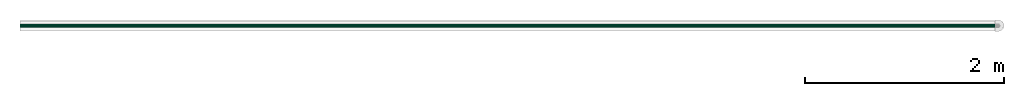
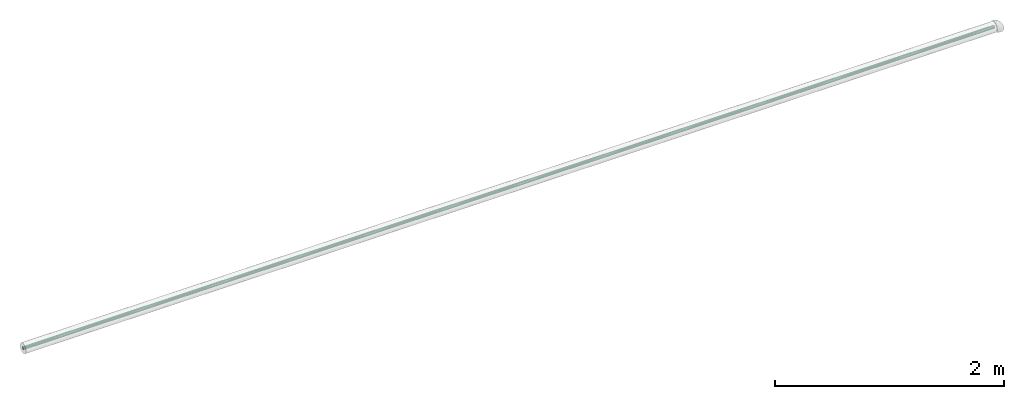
# One storey, part 4 of 4: 1 flow segment.
"""IFC2X3 building model written with IfcOpenShell, lengths in millimetres."""

import ifcopenshell
import ifcopenshell.guid

model = None  # the IFC model being written
_history = None  # IfcOwnerHistory: only IFC2X3 demands one
_inside = {}  # id of a spatial element -> (the spatial element, [elements in it])
_under = {}  # id of a project, library or spatial element -> (it, [spatial elements below it])
_declared = {}  # id of a project -> (the project, [libraries it declares])
_typed = {}  # id of a type object -> (the type object, [elements of that type])
_made_of = {}  # id of a material, layer set ... -> (it, [elements and type objects made of it])


def new_model(schema):
    """Start an empty IFC model of exactly this schema.

    Asked for "IFC4X3", IfcOpenShell would pick the latest addendum, in which some entities
    have other attributes; the version numbers below select the first issue.
    IFC2X3 requires an IfcOwnerHistory on every rooted entity: one is made here for all.
    """
    global model, _history
    if schema == "IFC4X3":
        model = ifcopenshell.file(schema_version=(4, 3, 0, 0))
    else:
        model = ifcopenshell.file(schema=schema)
    _inside.clear()
    _under.clear()
    _declared.clear()
    _typed.clear()
    _made_of.clear()
    _history = None
    if model.schema == "IFC2X3":
        org = make("IfcOrganization", Name="unknown")
        user = make(
            "IfcPersonAndOrganization",
            ThePerson=make("IfcPerson", FamilyName="unknown"),
            TheOrganization=org,
        )
        app = make(
            "IfcApplication",
            ApplicationDeveloper=org,
            Version="unknown",
            ApplicationFullName="unknown",
            ApplicationIdentifier="unknown",
        )
        _history = make(
            "IfcOwnerHistory",
            OwningUser=user,
            OwningApplication=app,
            ChangeAction="ADDED",
            CreationDate=0,
        )
    return model


def make(cls, **values):
    """One entity of the class cls with the attributes given. An attribute that is None is left unset."""
    return model.create_entity(
        cls, **{name: value for name, value in values.items() if value is not None}
    )


def entity(cls, *values):
    """Any entity or typed value of the class cls, its attributes in the order of the schema. None: left unset."""
    e = model.create_entity(cls)
    for i, value in enumerate(values):
        if value is not None:
            e[i] = value
    return e


def rooted(cls, **values):
    """An entity with a GlobalId (a new one), such as an element, a storey or a relation."""
    return make(cls, GlobalId=ifcopenshell.guid.new(), OwnerHistory=_history, **values)


def si_unit(unit_type, name, prefix=None):
    """IfcSIUnit, for example si_unit("LENGTHUNIT", "METRE", prefix="MILLI")."""
    return make("IfcSIUnit", UnitType=unit_type, Prefix=prefix, Name=name)


def converted_unit(unit_type, name, factor, base, dimensions=None, offset=None):
    """IfcConversionBasedUnit, such as the inch: factor (a typed value) times the base unit."""
    return make(
        "IfcConversionBasedUnit"
        if offset is None
        else "IfcConversionBasedUnitWithOffset",
        ConversionOffset=offset,
        Dimensions=None
        if dimensions is None
        else entity("IfcDimensionalExponents", *dimensions),
        UnitType=unit_type,
        Name=name,
        ConversionFactor=make(
            "IfcMeasureWithUnit", ValueComponent=factor, UnitComponent=base
        ),
    )


def derived_unit(unit_type, elements):
    """IfcDerivedUnit: a product of units, each with its exponent."""
    return make(
        "IfcDerivedUnit",
        Elements=[
            make("IfcDerivedUnitElement", Unit=unit, Exponent=power)
            for unit, power in elements
        ],
        UnitType=unit_type,
    )


def assignment(units):
    """IfcUnitAssignment: the units of a project."""
    return None if units is None else make("IfcUnitAssignment", Units=units)


def point(xyz):
    """IfcCartesianPoint."""
    return None if xyz is None else make("IfcCartesianPoint", Coordinates=xyz)


def direction(xyz):
    """IfcDirection."""
    return None if xyz is None else make("IfcDirection", DirectionRatios=xyz)


def frame(location, z_axis=None, x_axis=None):
    """IfcAxis2Placement3D, a coordinate frame: its origin and axes. An axis left out is left unset."""
    return make(
        "IfcAxis2Placement3D",
        Location=point(location),
        Axis=direction(z_axis),
        RefDirection=direction(x_axis),
    )


def place(relative_to, where):
    """IfcLocalPlacement: puts the frame where relative to a parent placement (None: the world)."""
    return make(
        "IfcLocalPlacement", PlacementRelTo=relative_to, RelativePlacement=where
    )


def context(
    kind, dimensions, precision=None, world=None, true_north=None, identifier=None
):
    """IfcGeometricRepresentationContext, for example the 3D "Model" context."""
    return make(
        "IfcGeometricRepresentationContext",
        ContextIdentifier=identifier,
        ContextType=kind,
        CoordinateSpaceDimension=dimensions,
        Precision=precision,
        WorldCoordinateSystem=world,
        TrueNorth=true_north,
    )


def subcontext(parent, identifier, kind, view, scale=None):
    """IfcGeometricRepresentationSubContext, for example "Body" below "Model"."""
    return make(
        "IfcGeometricRepresentationSubContext",
        ContextIdentifier=identifier,
        ContextType=kind,
        ParentContext=parent,
        TargetScale=scale,
        TargetView=view,
    )


def project(units=None, contexts=None):
    """IfcProject with its units and contexts."""
    return rooted(
        "IfcProject",
        Name="project",
        RepresentationContexts=contexts,
        UnitsInContext=assignment(units),
    )


def spatial(cls, under=None, at=None, **own):
    """A site, building, storey or space (cls), placed at a placement, below another one or the project."""
    s = rooted(cls, ObjectPlacement=at, **own)
    if under is not None:
        _under.setdefault(under.id(), (under, []))[1].append(s)
    return s


def faces_of(points, faces, orient=None, outer=None):
    """IfcFace entities. A face is a list of loops; a loop is a list of indices into points, from 0.

    orient and outer hold one flag for each loop. By default every Orientation is true, the
    first loop of a face is its IfcFaceOuterBound and the others are IfcFaceBound.
    """
    made = []
    for i, loops in enumerate(faces):
        bounds = []
        for j, loop in enumerate(loops):
            is_outer = j == 0 if outer is None else outer[i][j]
            bounds.append(
                make(
                    "IfcFaceOuterBound" if is_outer else "IfcFaceBound",
                    Bound=make("IfcPolyLoop", Polygon=[points[k] for k in loop]),
                    Orientation=True if orient is None else orient[i][j],
                )
            )
        made.append(make("IfcFace", Bounds=bounds))
    return made


def faceted_brep(points, faces, orient=None, outer=None, voids=None):
    """IfcFacetedBrep: a solid bounded by flat faces; with voids (closed shells), ...WithVoids."""
    shared = [point(p) for p in points]
    hull = make("IfcClosedShell", CfsFaces=faces_of(shared, faces, orient, outer))
    if voids is None:
        return make("IfcFacetedBrep", Outer=hull)
    return make(
        "IfcFacetedBrepWithVoids",
        Outer=hull,
        Voids=[
            make(cls, CfsFaces=faces_of(shared, fs, o, b)) for cls, fs, o, b in voids
        ],
    )


def shape(context_of_items, identifier, shape_type, items):
    """IfcShapeRepresentation: the items that make up one representation, for example the "Body"."""
    return make(
        "IfcShapeRepresentation",
        ContextOfItems=context_of_items,
        RepresentationIdentifier=identifier,
        RepresentationType=shape_type,
        Items=items,
    )


def made_of(thing, what):
    """Note that an element or type object is made of a material, layer set ...; save() writes the relation."""
    if what is not None:
        _made_of.setdefault(what.id(), (what, []))[1].append(thing)
    return thing


def type_object(cls, material=None, **own):
    """A type object (cls), such as IfcWallType, which elements share."""
    return made_of(rooted(cls, **own), material)


def element(
    cls,
    number,
    at=None,
    inside=None,
    cuts=None,
    type_object=None,
    material=None,
    context=None,
    identifier="Body",
    shape_type=None,
    held_by="IfcProductDefinitionShape",
    body=None,
    shapes=None,
    **own,
):
    """One element of the class cls, such as IfcWall. Its Tag is "e" and its number.

    at: its placement. inside: the storey or other place that contains it. cuts: it is an
    opening in that element (IfcRelVoidsElement). A single representation is given by context,
    identifier, shape_type and body (its items); several are given by shapes. held_by: the class
    of the entity that holds the representations. save() writes the other relations.
    """
    e = rooted(cls, Tag="e%d" % number, ObjectPlacement=at, **own)
    if body is not None:
        shapes = [shape(context, identifier, shape_type, body)]
    if shapes is not None:
        e.Representation = make(held_by, Representations=shapes)
    if inside is not None:
        _inside.setdefault(inside.id(), (inside, []))[1].append(e)
    if cuts is not None:
        rooted(
            "IfcRelVoidsElement", RelatingBuildingElement=cuts, RelatedOpeningElement=e
        )
    if type_object is not None:
        _typed.setdefault(type_object.id(), (type_object, []))[1].append(e)
    return made_of(e, material)


def aggregate(whole, parts):
    """IfcRelAggregates: a whole, such as a stair, and the parts it consists of."""
    return rooted("IfcRelAggregates", RelatingObject=whole, RelatedObjects=parts)


def save(model, path):
    """Write the relations noted so far, then the file.

    IfcRelAggregates (storeys below a building ...), IfcRelContainedInSpatialStructure (elements
    in a storey), IfcRelDefinesByType, IfcRelAssociatesMaterial and IfcRelDeclares: one each for
    every whole, place, type object, material and project.
    """
    for whole, parts in _under.values():
        aggregate(whole, parts)
    for where, things in _inside.values():
        rooted(
            "IfcRelContainedInSpatialStructure",
            RelatedElements=things,
            RelatingStructure=where,
        )
    for kind, things in _typed.values():
        rooted("IfcRelDefinesByType", RelatedObjects=things, RelatingType=kind)
    for what, things in _made_of.values():
        rooted("IfcRelAssociatesMaterial", RelatedObjects=things, RelatingMaterial=what)
    for by, libraries in _declared.values():
        rooted("IfcRelDeclares", RelatingContext=by, RelatedDefinitions=libraries)
    model.write(path)


model = new_model("IFC2X3")

# Units and contexts
model_context = context("Model", 3, precision=0.01, world=frame((0.0, 4.29681676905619e-09, 0.0)), true_north=direction((4.01073788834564e-13, 1.0)))
plan_context = context("Plan", 3, precision=0.01, world=frame((0.0, 4.29681676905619e-09, 0.0)), true_north=direction((4.01073788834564e-13, 1.0)))
body_context = subcontext(model_context, "Body", "Model", "MODEL_VIEW")
ifc_project = project(units=[converted_unit("PLANEANGLEUNIT", "DEGREE", entity("IfcPositiveLengthMeasure", 0.0174532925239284), si_unit("PLANEANGLEUNIT", "RADIAN"), dimensions=[0, 0, 0, 0, 0, 0, 0]), si_unit("AREAUNIT", "SQUARE_METRE"), si_unit("LENGTHUNIT", "METRE", prefix="MILLI"), si_unit("MASSUNIT", "GRAM", prefix="KILO"), si_unit("POWERUNIT", "WATT"), si_unit("PRESSUREUNIT", "PASCAL"), si_unit("FORCEUNIT", "NEWTON", prefix="KILO"), si_unit("ELECTRICVOLTAGEUNIT", "VOLT"), si_unit("ELECTRICCURRENTUNIT", "AMPERE"), si_unit("THERMODYNAMICTEMPERATUREUNIT", "DEGREE_CELSIUS"), si_unit("TIMEUNIT", "SECOND"), si_unit("VOLUMEUNIT", "CUBIC_METRE"), derived_unit("LINEARVELOCITYUNIT", [(si_unit("LENGTHUNIT", "METRE"), 1), (si_unit("TIMEUNIT", "SECOND"), -1)]), derived_unit("VOLUMETRICFLOWRATEUNIT", [(si_unit("VOLUMEUNIT", "CUBIC_METRE"), 1), (si_unit("TIMEUNIT", "SECOND"), -1)]), derived_unit("THERMALTRANSMITTANCEUNIT", [(si_unit("POWERUNIT", "WATT"), 1), (si_unit("THERMODYNAMICTEMPERATUREUNIT", "KELVIN"), -1), (si_unit("AREAUNIT", "SQUARE_METRE"), -1)]), derived_unit("SOUNDPRESSUREUNIT", [(si_unit("PRESSUREUNIT", "PASCAL"), 1)])], contexts=[model_context, plan_context])

# Site, building, storey
site_placement = place(None, frame((0.0, -4.29681676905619e-09, 0.0), z_axis=(0.0, 0.0, 1.0), x_axis=(1.0, 0.0, 0.0)))
site = spatial("IfcSite", under=ifc_project, at=site_placement, Name="ENGM", CompositionType="ELEMENT")
building_placement = place(site_placement, frame((0.0, 4.29681676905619e-09, 0.0), z_axis=(0.0, 0.0, 1.0), x_axis=(1.0, 0.0, 0.0)))
building = spatial("IfcBuilding", under=site, at=building_placement, Name="TI", CompositionType="ELEMENT")
storey_placement = place(building_placement, frame((0.0, 0.0, 205200.0), z_axis=(0.0, 0.0, 1.0), x_axis=(1.0, 0.0, 0.0)))
storey = spatial("IfcBuildingStorey", under=building, at=storey_placement, Name="Nivå D + 1,2 m", CompositionType="ELEMENT", Elevation=205200.0)

# Flow segment
pipe_segment_type = type_object("IfcPipeSegmentType", Name="Stålrør normaltykke", PredefinedType="RIGIDSEGMENT")
flow_segment_placement = place(storey_placement, frame((607790.23193, 699355.84973, 4953.16299000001), z_axis=(0.0, 0.0, 1.0), x_axis=(-1.0, 0.0, 0.0)))
element("IfcFlowSegment", 1, at=flow_segment_placement, inside=storey, type_object=pipe_segment_type, Name="Stålrør normaltykke", context=body_context, shape_type="Brep", body=[
    faceted_brep([(9790.23193005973, 14.9, 0.0), (9790.23193005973, 14.6736355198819, -2.58735784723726), (0.0, 14.6736355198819, -2.58735784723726), (0.0, 14.9, 0.0), (9790.23193005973, 14.00142004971, -5.09610013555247), (0.0, 14.00142004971, -5.09610013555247), (9790.23193005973, 12.9037785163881, -7.45), (0.0, 12.9037785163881, -7.45000000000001), (9790.23193005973, 11.4140622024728, -9.57753538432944), (0.0, 11.4140622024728, -9.57753538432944), (9790.23193005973, 9.57753538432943, -11.4140622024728), (0.0, 9.57753538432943, -11.4140622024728), (9790.23193005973, 7.45, -12.9037785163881), (0.0, 7.45, -12.9037785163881), (9790.23193005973, 5.09610013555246, -14.00142004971), (0.0, 5.09610013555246, -14.00142004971), (9790.23193005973, 2.58735784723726, -14.6736355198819), (0.0, 2.58735784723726, -14.6736355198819), (9790.23193005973, -2.73708559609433e-15, -14.9), (0.0, -2.73708559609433e-15, -14.9), (9790.23193005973, -2.58735784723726, -14.6736355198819), (0.0, -2.58735784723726, -14.6736355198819), (9790.23193005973, -5.09610013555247, -14.00142004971), (0.0, -5.09610013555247, -14.00142004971), (9790.23193005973, -7.45, -12.9037785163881), (0.0, -7.45000000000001, -12.9037785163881), (9790.23193005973, -9.57753538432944, -11.4140622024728), (0.0, -9.57753538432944, -11.4140622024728), (9790.23193005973, -11.4140622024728, -9.57753538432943), (0.0, -11.4140622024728, -9.57753538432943), (9790.23193005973, -12.9037785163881, -7.44999999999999), (0.0, -12.9037785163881, -7.44999999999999), (9790.23193005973, -14.00142004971, -5.09610013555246), (0.0, -14.00142004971, -5.09610013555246), (9790.23193005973, -14.6736355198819, -2.58735784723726), (0.0, -14.6736355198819, -2.58735784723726), (9790.23193005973, -14.9, 1.82472373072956e-15), (0.0, -14.9, 1.82472373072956e-15), (9790.23193005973, -14.6736355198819, 2.58735784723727), (0.0, -14.6736355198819, 2.58735784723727), (9790.23193005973, -14.00142004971, 5.09610013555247), (0.0, -14.00142004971, 5.09610013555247), (9790.23193005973, -12.9037785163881, 7.45), (0.0, -12.9037785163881, 7.45), (9790.23193005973, -11.4140622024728, 9.57753538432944), (0.0, -11.4140622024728, 9.57753538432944), (9790.23193005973, -9.57753538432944, 11.4140622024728), (0.0, -9.57753538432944, 11.4140622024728), (9790.23193005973, -7.45, 12.9037785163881), (0.0, -7.45, 12.9037785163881), (9790.23193005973, -5.09610013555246, 14.00142004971), (0.0, -5.09610013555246, 14.00142004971), (9790.23193005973, -2.58735784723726, 14.6736355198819), (0.0, -2.58735784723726, 14.6736355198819), (9790.23193005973, 9.12361865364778e-16, 14.9), (0.0, 9.12361865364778e-16, 14.9), (9790.23193005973, 2.58735784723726, 14.6736355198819), (0.0, 2.58735784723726, 14.6736355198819), (9790.23193005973, 5.09610013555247, 14.00142004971), (0.0, 5.09610013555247, 14.00142004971), (9790.23193005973, 7.45, 12.9037785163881), (0.0, 7.45, 12.9037785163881), (9790.23193005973, 9.57753538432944, 11.4140622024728), (0.0, 9.57753538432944, 11.4140622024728), (9790.23193005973, 11.4140622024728, 9.57753538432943), (0.0, 11.4140622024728, 9.57753538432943), (9790.23193005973, 12.9037785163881, 7.45), (0.0, 12.9037785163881, 7.45), (9790.23193005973, 14.00142004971, 5.09610013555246), (0.0, 14.00142004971, 5.09610013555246), (9790.23193005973, 14.6736355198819, 2.58735784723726), (0.0, 14.6736355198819, 2.58735784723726), (9790.23193005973, 16.6432510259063, -2.93465420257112), (9790.23193005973, 16.9, 0.0), (0.0, 16.9, 0.0), (0.0, 16.6432510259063, -2.93465420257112), (9790.23193005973, 16.6432510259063, 2.93465420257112), (0.0, 16.6432510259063, 2.93465420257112), (9790.23193005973, 15.8808052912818, 5.7801404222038), (0.0, 15.8808052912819, 5.7801404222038), (9790.23193005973, 14.635829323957, 8.45), (0.0, 14.635829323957, 8.45), (9790.23193005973, 12.9461510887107, 10.8631106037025), (0.0, 12.9461510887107, 10.8631106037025), (9790.23193005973, 10.8631106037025, 12.9461510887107), (0.0, 10.8631106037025, 12.9461510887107), (9790.23193005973, 8.45, 14.635829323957), (0.0, 8.45, 14.635829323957), (9790.23193005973, 5.7801404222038, 15.8808052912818), (0.0, 5.7801404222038, 15.8808052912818), (9790.23193005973, 2.93465420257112, 16.6432510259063), (0.0, 2.93465420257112, 16.6432510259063), (9790.23193005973, 1.03482654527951e-15, 16.9), (0.0, 1.03482654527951e-15, 16.9), (9790.23193005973, -2.93465420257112, 16.6432510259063), (0.0, -2.93465420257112, 16.6432510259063), (9790.23193005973, -5.7801404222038, 15.8808052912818), (0.0, -5.7801404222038, 15.8808052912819), (9790.23193005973, -8.45, 14.635829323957), (0.0, -8.45, 14.635829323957), (9790.23193005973, -10.8631106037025, 12.9461510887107), (0.0, -10.8631106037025, 12.9461510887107), (9790.23193005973, -12.9461510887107, 10.8631106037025), (0.0, -12.9461510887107, 10.8631106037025), (9790.23193005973, -14.635829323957, 8.45), (0.0, -14.635829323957, 8.45), (9790.23193005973, -15.8808052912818, 5.7801404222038), (0.0, -15.8808052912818, 5.7801404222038), (9790.23193005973, -16.6432510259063, 2.93465420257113), (0.0, -16.6432510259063, 2.93465420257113), (9790.23193005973, -16.9, 2.06965309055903e-15), (0.0, -16.9, 2.06965309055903e-15), (9790.23193005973, -16.6432510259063, -2.93465420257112), (0.0, -16.6432510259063, -2.93465420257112), (9790.23193005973, -15.8808052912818, -5.7801404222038), (0.0, -15.8808052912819, -5.7801404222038), (9790.23193005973, -14.635829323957, -8.44999999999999), (0.0, -14.635829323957, -8.44999999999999), (9790.23193005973, -12.9461510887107, -10.8631106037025), (0.0, -12.9461510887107, -10.8631106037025), (9790.23193005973, -10.8631106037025, -12.9461510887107), (0.0, -10.8631106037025, -12.9461510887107), (9790.23193005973, -8.45000000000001, -14.635829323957), (0.0, -8.45000000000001, -14.635829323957), (9790.23193005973, -5.78014042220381, -15.8808052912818), (0.0, -5.78014042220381, -15.8808052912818), (9790.23193005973, -2.93465420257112, -16.6432510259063), (0.0, -2.93465420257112, -16.6432510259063), (9790.23193005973, -3.10447963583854e-15, -16.9), (0.0, -3.10447963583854e-15, -16.9), (9790.23193005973, 2.93465420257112, -16.6432510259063), (0.0, 2.93465420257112, -16.6432510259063), (9790.23193005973, 5.78014042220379, -15.8808052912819), (0.0, 5.78014042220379, -15.8808052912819), (9790.23193005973, 8.45, -14.635829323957), (0.0, 8.45, -14.635829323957), (9790.23193005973, 10.8631106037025, -12.9461510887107), (0.0, 10.8631106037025, -12.9461510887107), (9790.23193005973, 12.9461510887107, -10.8631106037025), (0.0, 12.9461510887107, -10.8631106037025), (9790.23193005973, 14.635829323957, -8.45000000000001), (0.0, 14.635829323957, -8.45000000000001), (9790.23193005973, 15.8808052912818, -5.78014042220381), (0.0, 15.8808052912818, -5.78014042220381)], [[[0, 1, 2, 3]], [[1, 4, 5, 2]], [[4, 6, 7, 5]], [[6, 8, 9, 7]], [[8, 10, 11, 9]], [[10, 12, 13, 11]], [[12, 14, 15, 13]], [[14, 16, 17, 15]], [[16, 18, 19, 17]], [[18, 20, 21, 19]], [[20, 22, 23, 21]], [[22, 24, 25, 23]], [[24, 26, 27, 25]], [[26, 28, 29, 27]], [[28, 30, 31, 29]], [[30, 32, 33, 31]], [[32, 34, 35, 33]], [[34, 36, 37, 35]], [[36, 38, 39, 37]], [[38, 40, 41, 39]], [[40, 42, 43, 41]], [[42, 44, 45, 43]], [[44, 46, 47, 45]], [[46, 48, 49, 47]], [[48, 50, 51, 49]], [[50, 52, 53, 51]], [[52, 54, 55, 53]], [[54, 56, 57, 55]], [[56, 58, 59, 57]], [[58, 60, 61, 59]], [[60, 62, 63, 61]], [[62, 64, 65, 63]], [[64, 66, 67, 65]], [[66, 68, 69, 67]], [[68, 70, 71, 69]], [[70, 0, 3, 71]], [[72, 73, 74, 75]], [[73, 76, 77, 74]], [[76, 78, 79, 77]], [[78, 80, 81, 79]], [[80, 82, 83, 81]], [[82, 84, 85, 83]], [[84, 86, 87, 85]], [[86, 88, 89, 87]], [[88, 90, 91, 89]], [[90, 92, 93, 91]], [[92, 94, 95, 93]], [[94, 96, 97, 95]], [[96, 98, 99, 97]], [[98, 100, 101, 99]], [[100, 102, 103, 101]], [[102, 104, 105, 103]], [[104, 106, 107, 105]], [[106, 108, 109, 107]], [[108, 110, 111, 109]], [[110, 112, 113, 111]], [[112, 114, 115, 113]], [[114, 116, 117, 115]], [[116, 118, 119, 117]], [[118, 120, 121, 119]], [[120, 122, 123, 121]], [[122, 124, 125, 123]], [[124, 126, 127, 125]], [[126, 128, 129, 127]], [[128, 130, 131, 129]], [[130, 132, 133, 131]], [[132, 134, 135, 133]], [[134, 136, 137, 135]], [[136, 138, 139, 137]], [[138, 140, 141, 139]], [[140, 142, 143, 141]], [[142, 72, 75, 143]], [[75, 74, 77, 79, 81, 83, 85, 87, 89, 91, 93, 95, 97, 99, 101, 103, 105, 107, 109, 111, 113, 115, 117, 119, 121, 123, 125, 127, 129, 131, 133, 135, 137, 139, 141, 143], [3, 2, 5, 7, 9, 11, 13, 15, 17, 19, 21, 23, 25, 27, 29, 31, 33, 35, 37, 39, 41, 43, 45, 47, 49, 51, 53, 55, 57, 59, 61, 63, 65, 67, 69, 71]], [[142, 140, 138, 136, 134, 132, 130, 128, 126, 124, 122, 120, 118, 116, 114, 112, 110, 108, 106, 104, 102, 100, 98, 96, 94, 92, 90, 88, 86, 84, 82, 80, 78, 76, 73, 72], [70, 68, 66, 64, 62, 60, 58, 56, 54, 52, 50, 48, 46, 44, 42, 40, 38, 36, 34, 32, 30, 28, 26, 24, 22, 20, 18, 16, 14, 12, 10, 8, 6, 4, 1, 0]]], orient=[[False], [False], [False], [False], [False], [False], [False], [False], [False], [False], [False], [False], [False], [False], [False], [False], [False], [False], [False], [False], [False], [False], [False], [False], [False], [False], [False], [False], [False], [False], [False], [False], [False], [False], [False], [False], [False], [False], [False], [False], [False], [False], [False], [False], [False], [False], [False], [False], [False], [False], [False], [False], [False], [False], [False], [False], [False], [False], [False], [False], [False], [False], [False], [False], [False], [False], [False], [False], [False], [False], [False], [False], [False, False], [False, False]]),
])

save(model, "model.ifc")
